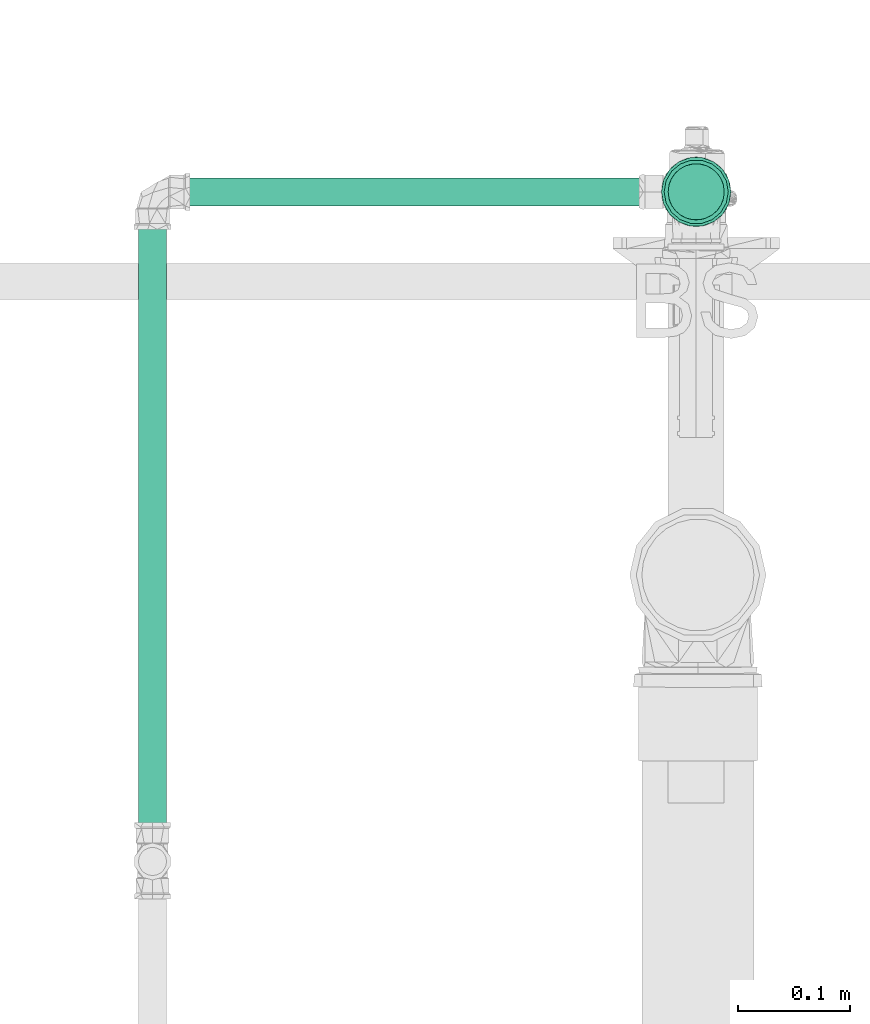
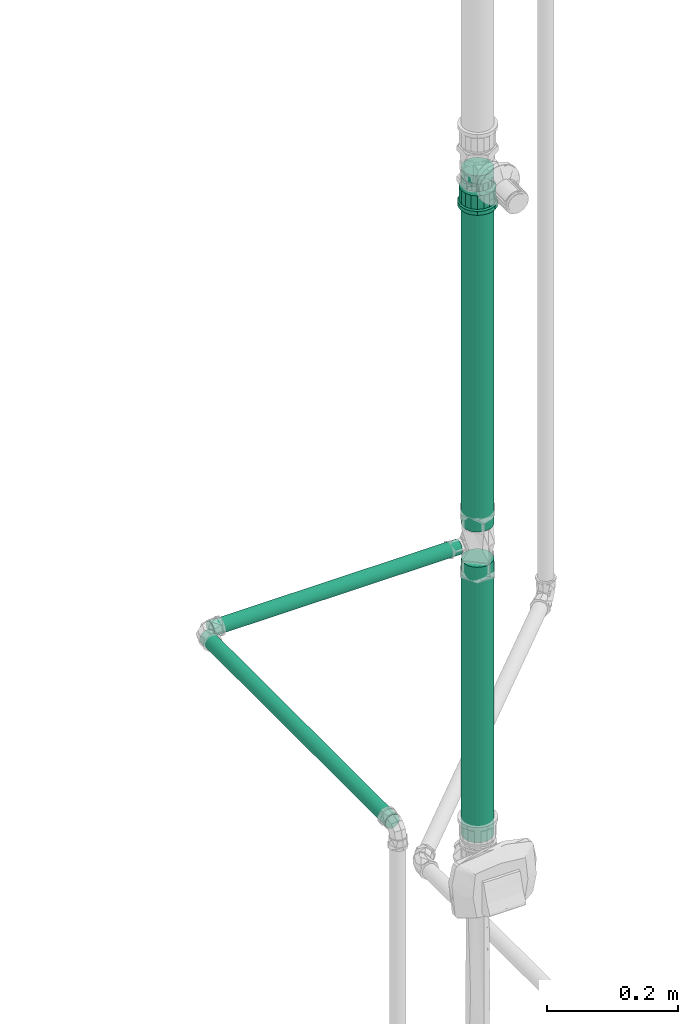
# One storey, part 57 of 589: 4 flow segments, 1 flow fitting.
"""IFC2X3 building model written with IfcOpenShell, lengths in millimetres."""

import ifcopenshell
import ifcopenshell.guid

model = None  # the IFC model being written
_history = None  # IfcOwnerHistory: only IFC2X3 demands one
_inside = {}  # id of a spatial element -> (the spatial element, [elements in it])
_under = {}  # id of a project, library or spatial element -> (it, [spatial elements below it])
_declared = {}  # id of a project -> (the project, [libraries it declares])
_typed = {}  # id of a type object -> (the type object, [elements of that type])
_made_of = {}  # id of a material, layer set ... -> (it, [elements and type objects made of it])


def new_model(schema):
    """Start an empty IFC model of exactly this schema.

    Asked for "IFC4X3", IfcOpenShell would pick the latest addendum, in which some entities
    have other attributes; the version numbers below select the first issue.
    IFC2X3 requires an IfcOwnerHistory on every rooted entity: one is made here for all.
    """
    global model, _history
    if schema == "IFC4X3":
        model = ifcopenshell.file(schema_version=(4, 3, 0, 0))
    else:
        model = ifcopenshell.file(schema=schema)
    _inside.clear()
    _under.clear()
    _declared.clear()
    _typed.clear()
    _made_of.clear()
    _history = None
    if model.schema == "IFC2X3":
        org = make("IfcOrganization", Name="unknown")
        user = make(
            "IfcPersonAndOrganization",
            ThePerson=make("IfcPerson", FamilyName="unknown"),
            TheOrganization=org,
        )
        app = make(
            "IfcApplication",
            ApplicationDeveloper=org,
            Version="unknown",
            ApplicationFullName="unknown",
            ApplicationIdentifier="unknown",
        )
        _history = make(
            "IfcOwnerHistory",
            OwningUser=user,
            OwningApplication=app,
            ChangeAction="ADDED",
            CreationDate=0,
        )
    return model


def make(cls, **values):
    """One entity of the class cls with the attributes given. An attribute that is None is left unset."""
    return model.create_entity(
        cls, **{name: value for name, value in values.items() if value is not None}
    )


def entity(cls, *values):
    """Any entity or typed value of the class cls, its attributes in the order of the schema. None: left unset."""
    e = model.create_entity(cls)
    for i, value in enumerate(values):
        if value is not None:
            e[i] = value
    return e


def rooted(cls, **values):
    """An entity with a GlobalId (a new one), such as an element, a storey or a relation."""
    return make(cls, GlobalId=ifcopenshell.guid.new(), OwnerHistory=_history, **values)


def si_unit(unit_type, name, prefix=None):
    """IfcSIUnit, for example si_unit("LENGTHUNIT", "METRE", prefix="MILLI")."""
    return make("IfcSIUnit", UnitType=unit_type, Prefix=prefix, Name=name)


def converted_unit(unit_type, name, factor, base, dimensions=None, offset=None):
    """IfcConversionBasedUnit, such as the inch: factor (a typed value) times the base unit."""
    return make(
        "IfcConversionBasedUnit"
        if offset is None
        else "IfcConversionBasedUnitWithOffset",
        ConversionOffset=offset,
        Dimensions=None
        if dimensions is None
        else entity("IfcDimensionalExponents", *dimensions),
        UnitType=unit_type,
        Name=name,
        ConversionFactor=make(
            "IfcMeasureWithUnit", ValueComponent=factor, UnitComponent=base
        ),
    )


def derived_unit(unit_type, elements):
    """IfcDerivedUnit: a product of units, each with its exponent."""
    return make(
        "IfcDerivedUnit",
        Elements=[
            make("IfcDerivedUnitElement", Unit=unit, Exponent=power)
            for unit, power in elements
        ],
        UnitType=unit_type,
    )


def assignment(units):
    """IfcUnitAssignment: the units of a project."""
    return None if units is None else make("IfcUnitAssignment", Units=units)


def point(xyz):
    """IfcCartesianPoint."""
    return None if xyz is None else make("IfcCartesianPoint", Coordinates=xyz)


def direction(xyz):
    """IfcDirection."""
    return None if xyz is None else make("IfcDirection", DirectionRatios=xyz)


def frame(location, z_axis=None, x_axis=None):
    """IfcAxis2Placement3D, a coordinate frame: its origin and axes. An axis left out is left unset."""
    return make(
        "IfcAxis2Placement3D",
        Location=point(location),
        Axis=direction(z_axis),
        RefDirection=direction(x_axis),
    )


def frame_2d(location, x_axis=None):
    """IfcAxis2Placement2D, a coordinate frame in the plane: its origin and x axis."""
    return make(
        "IfcAxis2Placement2D", Location=point(location), RefDirection=direction(x_axis)
    )


def origin():
    """The frame at (0, 0, 0) with its axes left unset."""
    return frame((0.0, 0.0, 0.0))


def origin_2d_with_axis():
    """The frame at (0, 0) in the plane with the x axis (1, 0) written out."""
    return frame_2d((0.0, 0.0), x_axis=(1.0, 0.0))


def place(relative_to, where):
    """IfcLocalPlacement: puts the frame where relative to a parent placement (None: the world)."""
    return make(
        "IfcLocalPlacement", PlacementRelTo=relative_to, RelativePlacement=where
    )


def context(
    kind, dimensions, precision=None, world=None, true_north=None, identifier=None
):
    """IfcGeometricRepresentationContext, for example the 3D "Model" context."""
    return make(
        "IfcGeometricRepresentationContext",
        ContextIdentifier=identifier,
        ContextType=kind,
        CoordinateSpaceDimension=dimensions,
        Precision=precision,
        WorldCoordinateSystem=world,
        TrueNorth=true_north,
    )


def subcontext(parent, identifier, kind, view, scale=None):
    """IfcGeometricRepresentationSubContext, for example "Body" below "Model"."""
    return make(
        "IfcGeometricRepresentationSubContext",
        ContextIdentifier=identifier,
        ContextType=kind,
        ParentContext=parent,
        TargetScale=scale,
        TargetView=view,
    )


def project(units=None, contexts=None):
    """IfcProject with its units and contexts."""
    return rooted(
        "IfcProject",
        Name="project",
        RepresentationContexts=contexts,
        UnitsInContext=assignment(units),
    )


def spatial(cls, under=None, at=None, **own):
    """A site, building, storey or space (cls), placed at a placement, below another one or the project."""
    s = rooted(cls, ObjectPlacement=at, **own)
    if under is not None:
        _under.setdefault(under.id(), (under, []))[1].append(s)
    return s


def profile(cls, at=None, kind="AREA", **sizes):
    """A parametric profile (cls). Its sizes go by their IFC names, for example OverallWidth=200.0."""
    return make(cls, ProfileType=kind, Position=at, **sizes)


def circle(**sizes):
    """IfcCircleProfileDef."""
    return profile("IfcCircleProfileDef", **sizes)


def extrude(swept, where, along, depth):
    """IfcExtrudedAreaSolid: the profile swept, set in the frame where, extruded along a direction by depth."""
    return make(
        "IfcExtrudedAreaSolid",
        SweptArea=swept,
        Position=where,
        ExtrudedDirection=direction(along),
        Depth=depth,
    )


def faces_of(points, faces, orient=None, outer=None):
    """IfcFace entities. A face is a list of loops; a loop is a list of indices into points, from 0.

    orient and outer hold one flag for each loop. By default every Orientation is true, the
    first loop of a face is its IfcFaceOuterBound and the others are IfcFaceBound.
    """
    made = []
    for i, loops in enumerate(faces):
        bounds = []
        for j, loop in enumerate(loops):
            is_outer = j == 0 if outer is None else outer[i][j]
            bounds.append(
                make(
                    "IfcFaceOuterBound" if is_outer else "IfcFaceBound",
                    Bound=make("IfcPolyLoop", Polygon=[points[k] for k in loop]),
                    Orientation=True if orient is None else orient[i][j],
                )
            )
        made.append(make("IfcFace", Bounds=bounds))
    return made


def faceted_brep(points, faces, orient=None, outer=None, voids=None):
    """IfcFacetedBrep: a solid bounded by flat faces; with voids (closed shells), ...WithVoids."""
    shared = [point(p) for p in points]
    hull = make("IfcClosedShell", CfsFaces=faces_of(shared, faces, orient, outer))
    if voids is None:
        return make("IfcFacetedBrep", Outer=hull)
    return make(
        "IfcFacetedBrepWithVoids",
        Outer=hull,
        Voids=[
            make(cls, CfsFaces=faces_of(shared, fs, o, b)) for cls, fs, o, b in voids
        ],
    )


def shape(context_of_items, identifier, shape_type, items):
    """IfcShapeRepresentation: the items that make up one representation, for example the "Body"."""
    return make(
        "IfcShapeRepresentation",
        ContextOfItems=context_of_items,
        RepresentationIdentifier=identifier,
        RepresentationType=shape_type,
        Items=items,
    )


def source(mapping_origin, context_of_items, identifier, shape_type, items):
    """IfcRepresentationMap: a shape defined once, which mapped items show again and again."""
    return make(
        "IfcRepresentationMap",
        MappingOrigin=mapping_origin,
        MappedRepresentation=shape(context_of_items, identifier, shape_type, items),
    )


def transform(
    local_origin,
    x_axis=None,
    y_axis=None,
    z_axis=None,
    scale=None,
    scale2=None,
    scale3=None,
    uniform=True,
):
    """IfcCartesianTransformationOperator3D, or its non-uniform kind. x_axis, y_axis, z_axis: its Axis1, 2, 3."""
    if uniform:
        return make(
            "IfcCartesianTransformationOperator3D",
            Axis1=direction(x_axis),
            Axis2=direction(y_axis),
            LocalOrigin=point(local_origin),
            Scale=scale,
            Axis3=direction(z_axis),
        )
    return make(
        "IfcCartesianTransformationOperator3DnonUniform",
        Axis1=direction(x_axis),
        Axis2=direction(y_axis),
        LocalOrigin=point(local_origin),
        Scale=scale,
        Axis3=direction(z_axis),
        Scale2=scale2,
        Scale3=scale3,
    )


def mapped(mapping_source, mapping_target):
    """IfcMappedItem: shows the shape of a source again, moved by a transform."""
    return make(
        "IfcMappedItem", MappingSource=mapping_source, MappingTarget=mapping_target
    )


def material(Name=None, Category=None):
    """IfcMaterial."""
    return make("IfcMaterial", Name=Name, Category=Category)


def made_of(thing, what):
    """Note that an element or type object is made of a material, layer set ...; save() writes the relation."""
    if what is not None:
        _made_of.setdefault(what.id(), (what, []))[1].append(thing)
    return thing


def type_object(cls, material=None, **own):
    """A type object (cls), such as IfcWallType, which elements share."""
    return made_of(rooted(cls, **own), material)


def type_shapes(of_type, sources):
    """Give a type object the sources (RepresentationMaps) that its elements show as mapped items."""
    of_type.RepresentationMaps = sources


def element(
    cls,
    number,
    at=None,
    inside=None,
    cuts=None,
    type_object=None,
    material=None,
    context=None,
    identifier="Body",
    shape_type=None,
    held_by="IfcProductDefinitionShape",
    body=None,
    shapes=None,
    **own,
):
    """One element of the class cls, such as IfcWall. Its Tag is "e" and its number.

    at: its placement. inside: the storey or other place that contains it. cuts: it is an
    opening in that element (IfcRelVoidsElement). A single representation is given by context,
    identifier, shape_type and body (its items); several are given by shapes. held_by: the class
    of the entity that holds the representations. save() writes the other relations.
    """
    e = rooted(cls, Tag="e%d" % number, ObjectPlacement=at, **own)
    if body is not None:
        shapes = [shape(context, identifier, shape_type, body)]
    if shapes is not None:
        e.Representation = make(held_by, Representations=shapes)
    if inside is not None:
        _inside.setdefault(inside.id(), (inside, []))[1].append(e)
    if cuts is not None:
        rooted(
            "IfcRelVoidsElement", RelatingBuildingElement=cuts, RelatedOpeningElement=e
        )
    if type_object is not None:
        _typed.setdefault(type_object.id(), (type_object, []))[1].append(e)
    return made_of(e, material)


def aggregate(whole, parts):
    """IfcRelAggregates: a whole, such as a stair, and the parts it consists of."""
    return rooted("IfcRelAggregates", RelatingObject=whole, RelatedObjects=parts)


def save(model, path):
    """Write the relations noted so far, then the file.

    IfcRelAggregates (storeys below a building ...), IfcRelContainedInSpatialStructure (elements
    in a storey), IfcRelDefinesByType, IfcRelAssociatesMaterial and IfcRelDeclares: one each for
    every whole, place, type object, material and project.
    """
    for whole, parts in _under.values():
        aggregate(whole, parts)
    for where, things in _inside.values():
        rooted(
            "IfcRelContainedInSpatialStructure",
            RelatedElements=things,
            RelatingStructure=where,
        )
    for kind, things in _typed.values():
        rooted("IfcRelDefinesByType", RelatedObjects=things, RelatingType=kind)
    for what, things in _made_of.values():
        rooted("IfcRelAssociatesMaterial", RelatedObjects=things, RelatingMaterial=what)
    for by, libraries in _declared.values():
        rooted("IfcRelDeclares", RelatingContext=by, RelatedDefinitions=libraries)
    model.write(path)


model = new_model("IFC2X3")

# Units and contexts
model_context = context("Model", 3, precision=0.01, world=origin(), true_north=direction((6.123031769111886e-17, 1.0)))
body_context = subcontext(model_context, "Body", "Model", "MODEL_VIEW")
ifc_project = project(units=[si_unit("LENGTHUNIT", "METRE", prefix="MILLI"), si_unit("AREAUNIT", "SQUARE_METRE"), si_unit("VOLUMEUNIT", "CUBIC_METRE"), converted_unit("PLANEANGLEUNIT", "DEGREE", entity("IfcRatioMeasure", 0.017453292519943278), si_unit("PLANEANGLEUNIT", "RADIAN"), dimensions=[0, 0, 0, 0, 0, 0, 0]), si_unit("MASSUNIT", "GRAM", prefix="KILO"), derived_unit("MASSDENSITYUNIT", [(si_unit("MASSUNIT", "GRAM", prefix="KILO"), 1), (si_unit("LENGTHUNIT", "METRE"), -3)]), derived_unit("IONCONCENTRATIONUNIT", [(si_unit("MASSUNIT", "GRAM", prefix="KILO"), 1), (si_unit("LENGTHUNIT", "METRE"), -3)]), derived_unit("MOMENTOFINERTIAUNIT", [(si_unit("LENGTHUNIT", "METRE"), 4)]), si_unit("TIMEUNIT", "SECOND"), si_unit("FREQUENCYUNIT", "HERTZ"), si_unit("THERMODYNAMICTEMPERATUREUNIT", "DEGREE_CELSIUS"), derived_unit("THERMALTRANSMITTANCEUNIT", [(si_unit("MASSUNIT", "GRAM", prefix="KILO"), 1), (si_unit("THERMODYNAMICTEMPERATUREUNIT", "KELVIN"), -1), (si_unit("TIMEUNIT", "SECOND"), -3)]), derived_unit("THERMALCONDUCTANCEUNIT", [(si_unit("MASSUNIT", "GRAM", prefix="KILO"), 1), (si_unit("THERMODYNAMICTEMPERATUREUNIT", "KELVIN"), -1), (si_unit("TIMEUNIT", "SECOND"), -3), (si_unit("LENGTHUNIT", "METRE"), 1)]), derived_unit("VOLUMETRICFLOWRATEUNIT", [(si_unit("LENGTHUNIT", "METRE"), 3), (si_unit("TIMEUNIT", "SECOND"), -1)]), derived_unit("MASSFLOWRATEUNIT", [(si_unit("MASSUNIT", "GRAM", prefix="KILO"), 1), (si_unit("TIMEUNIT", "SECOND"), -1)]), derived_unit("ROTATIONALFREQUENCYUNIT", [(si_unit("TIMEUNIT", "SECOND"), -1)]), si_unit("ELECTRICCURRENTUNIT", "AMPERE"), si_unit("ELECTRICVOLTAGEUNIT", "VOLT"), si_unit("POWERUNIT", "WATT"), si_unit("FORCEUNIT", "NEWTON", prefix="KILO"), si_unit("ILLUMINANCEUNIT", "LUX"), si_unit("LUMINOUSFLUXUNIT", "LUMEN"), si_unit("LUMINOUSINTENSITYUNIT", "CANDELA"), derived_unit("USERDEFINED", [(si_unit("MASSUNIT", "GRAM", prefix="KILO"), -1), (si_unit("LENGTHUNIT", "METRE"), -2), (si_unit("TIMEUNIT", "SECOND"), 3), (si_unit("LUMINOUSFLUXUNIT", "LUMEN"), 1)]), derived_unit("USERDEFINED", [(si_unit("MASSUNIT", "GRAM", prefix="KILO"), 1), (si_unit("TIMEUNIT", "SECOND"), -3), (si_unit("LENGTHUNIT", "METRE"), 3), (si_unit("ELECTRICCURRENTUNIT", "AMPERE"), -2)]), derived_unit("SOUNDPOWERUNIT", [(si_unit("MASSUNIT", "GRAM", prefix="KILO"), 1), (si_unit("TIMEUNIT", "SECOND"), -3), (si_unit("LENGTHUNIT", "METRE"), 2)]), derived_unit("SOUNDPRESSUREUNIT", [(si_unit("MASSUNIT", "GRAM", prefix="KILO"), 1), (si_unit("LENGTHUNIT", "METRE"), -1), (si_unit("TIMEUNIT", "SECOND"), -2)]), derived_unit("LINEARVELOCITYUNIT", [(si_unit("LENGTHUNIT", "METRE"), 1), (si_unit("TIMEUNIT", "SECOND"), -1)]), si_unit("PRESSUREUNIT", "PASCAL"), derived_unit("USERDEFINED", [(si_unit("MASSUNIT", "GRAM", prefix="KILO"), 1), (si_unit("LENGTHUNIT", "METRE"), -2), (si_unit("TIMEUNIT", "SECOND"), -2)]), derived_unit("LINEARFORCEUNIT", [(si_unit("MASSUNIT", "GRAM", prefix="KILO"), 1), (si_unit("TIMEUNIT", "SECOND"), -2)]), derived_unit("PLANARFORCEUNIT", [(si_unit("MASSUNIT", "GRAM", prefix="KILO"), 1), (si_unit("LENGTHUNIT", "METRE"), -1), (si_unit("TIMEUNIT", "SECOND"), -2)]), derived_unit("SPECIFICHEATCAPACITYUNIT", [(si_unit("THERMODYNAMICTEMPERATUREUNIT", "KELVIN"), -1), (si_unit("LENGTHUNIT", "METRE"), 2), (si_unit("TIMEUNIT", "SECOND"), -2)]), derived_unit("HEATINGVALUEUNIT", [(si_unit("LENGTHUNIT", "METRE"), 2), (si_unit("TIMEUNIT", "SECOND"), -2)]), derived_unit("VAPORPERMEABILITYUNIT", [(si_unit("LENGTHUNIT", "METRE"), -1), (si_unit("TIMEUNIT", "SECOND"), 1)]), derived_unit("DYNAMICVISCOSITYUNIT", [(si_unit("MASSUNIT", "GRAM", prefix="KILO"), 1), (si_unit("TIMEUNIT", "SECOND"), -1), (si_unit("LENGTHUNIT", "METRE"), -1)]), derived_unit("THERMALEXPANSIONCOEFFICIENTUNIT", [(si_unit("THERMODYNAMICTEMPERATUREUNIT", "KELVIN"), -1)]), derived_unit("MODULUSOFELASTICITYUNIT", [(si_unit("MASSUNIT", "GRAM", prefix="KILO"), 1), (si_unit("LENGTHUNIT", "METRE"), -1), (si_unit("TIMEUNIT", "SECOND"), -2)]), derived_unit("ISOTHERMALMOISTURECAPACITYUNIT", [(si_unit("LENGTHUNIT", "METRE"), 3), (si_unit("MASSUNIT", "GRAM", prefix="KILO"), -1)]), derived_unit("MOISTUREDIFFUSIVITYUNIT", [(si_unit("TIMEUNIT", "SECOND"), -1), (si_unit("LENGTHUNIT", "METRE"), 2)])], contexts=[model_context])

# Site, building, storey
site_placement = place(None, origin())
site = spatial("IfcSite", under=ifc_project, at=site_placement, Name="Default", CompositionType="ELEMENT")
building_placement = place(site_placement, origin())
building = spatial("IfcBuilding", under=site, at=building_placement, CompositionType="ELEMENT")
storey_placement = place(building_placement, frame((0.0, 0.0, 100.0)))
storey = spatial("IfcBuildingStorey", under=building, at=storey_placement, Name="TÉRREO", CompositionType="ELEMENT", Elevation=100.0)

# Flow segments
pipe_segment_type = type_object("IfcPipeSegmentType", Name="Tipos de tubos:PVC Marrom Soldável", PredefinedType="NOTDEFINED")
flow_segment_1_placement = place(storey_placement, origin())
element("IfcFlowSegment", 1, at=flow_segment_1_placement, inside=storey, type_object=pipe_segment_type, Name="Tipos de tubos:PVC Marrom Soldável", ObjectType="Tipos de tubos:PVC Marrom Soldável", context=body_context, shape_type="SweptSolid", body=[
    extrude(circle(Radius=25.0, at=frame_2d((-2.707167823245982e-13, 0.0), x_axis=(1.0, 0.0))), frame((2016.6423921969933, -7970.828664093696, 1532.599970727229), z_axis=(0.0, 0.0, 1.0), x_axis=(-1.0, 0.0, 0.0)), (0.0, 0.0, 1.0), 645.9000292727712),
])
flow_segment_2_placement = place(storey_placement, origin())
element("IfcFlowSegment", 2, at=flow_segment_2_placement, inside=storey, type_object=pipe_segment_type, Name="Tipos de tubos:PVC Marrom Soldável", ObjectType="Tipos de tubos:PVC Marrom Soldável", context=body_context, shape_type="SweptSolid", body=[
    extrude(circle(Radius=12.5, at=frame_2d((0.0, 2.707167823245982e-13), x_axis=(1.0, 0.0))), frame((1547.1423921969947, -7970.828664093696, 1499.9999707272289), z_axis=(1.0, 0.0, 0.0), x_axis=(0.0, 1.0, 0.0)), (0.0, 0.0, 1.0), 435.7999999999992),
])
flow_segment_3_placement = place(storey_placement, origin())
element("IfcFlowSegment", 3, at=flow_segment_3_placement, inside=storey, type_object=pipe_segment_type, Name="Tipos de tubos:PVC Marrom Soldável", ObjectType="Tipos de tubos:PVC Marrom Soldável", context=body_context, shape_type="SweptSolid", body=[
    extrude(circle(Radius=25.0, at=origin_2d_with_axis()), frame((2016.6423921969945, -7970.828664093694, 955.7041463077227), z_axis=(0.0, 0.0, 1.0), x_axis=(-1.0, 0.0, 0.0)), (0.0, 0.0, 1.0), 511.6958244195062),
])
flow_segment_4_placement = place(storey_placement, origin())
element("IfcFlowSegment", 4, at=flow_segment_4_placement, inside=storey, type_object=pipe_segment_type, Name="Tipos de tubos:PVC Marrom Soldável", ObjectType="Tipos de tubos:PVC Marrom Soldável", context=body_context, shape_type="SweptSolid", body=[
    extrude(circle(Radius=12.5, at=origin_2d_with_axis()), frame((1531.7423921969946, -8551.428663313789, 1500.0), z_axis=(0.0, 1.0, 0.0), x_axis=(-1.0, 0.0, 0.0)), (0.0, 0.0, 1.0), 565.1999992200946),
])

# Flow fitting
ifc_material = material(Name="PVC Marrom")
pipe_fitting_type = type_object("IfcPipeFittingType", Name="PVC Marrom Soldável_Adaptador Curto com Bolsa e Rosca Aninhado_Rodrigo MEP:Adaptador", PredefinedType="NOTDEFINED", material=ifc_material)
shared_shape = source(origin(), body_context, "Body", "Brep", [
    faceted_brep([(0.0, 12.499999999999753, -21.65063509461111), (0.0, 21.884954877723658, -21.88495487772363), (0.0, 15.475000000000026, -26.803486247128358), (0.0, 17.677669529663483, -17.6776695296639), (0.0, 6.470476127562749, -24.14814565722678), (0.0, 26.803486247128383, -15.474999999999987), (0.0, 21.650635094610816, -12.500000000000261), (0.0, 24.148145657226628, -6.470476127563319), (0.0, 29.895404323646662, -8.01044944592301), (0.0, 25.0, 0.0), (0.0, 30.95, 0.0), (0.0, 24.14814565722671, 6.470476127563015), (0.0, 29.895404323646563, 8.010449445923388), (0.0, 21.65063509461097, 12.499999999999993), (0.0, 26.80348624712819, 15.475000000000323), (0.0, 17.6776695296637, 17.677669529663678), (0.0, 21.884954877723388, 21.884954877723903), (0.0, 12.500000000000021, 21.65063509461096), (0.0, 15.474999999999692, 26.803486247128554), (0.0, 6.4704761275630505, 24.1481456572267), (0.0, 8.010449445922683, 29.89540432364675), (0.0, 0.0, 25.0), (0.0, 0.0, 30.95), (0.0, -6.4704761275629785, 24.14814565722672), (0.0, -8.010449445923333, 29.895404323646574), (0.0, -12.49999999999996, 21.650635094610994), (0.0, -15.475000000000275, 26.803486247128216), (0.0, -17.677669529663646, 17.67766952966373), (0.0, -21.884954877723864, 21.884954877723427), (0.0, -21.65063509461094, 12.500000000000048), (0.0, -26.803486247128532, 15.474999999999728), (0.0, -29.89540432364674, 8.010449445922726), (0.0, -24.14814565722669, 6.4704761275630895), (0.0, -30.95, 0.0), (0.0, -25.0, 0.0), (0.0, -29.895404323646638, -8.010449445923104), (0.0, -24.148145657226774, -6.470476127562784), (0.0, -26.803486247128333, -15.475000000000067), (0.0, -21.6506350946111, -12.499999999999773), (0.0, -21.884954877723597, -21.884954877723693), (0.0, -17.677669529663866, -17.67766952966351), (0.0, -15.474999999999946, -26.803486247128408), (0.0, -12.500000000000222, -21.650635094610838), (0.0, -8.010449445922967, -29.895404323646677), (0.0, -6.470476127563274, -24.148145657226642), (0.0, 0.0, -30.95), (0.0, 0.0, -25.0), (0.0, 8.010449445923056, -29.895404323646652), (7.0, -30.016595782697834, 5.29316701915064), (7.0, -29.88065133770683, 6.064083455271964), (7.0, -29.083191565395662, 10.586334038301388), (7.0, -23.70796650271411, 19.895598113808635), (7.0, -19.590362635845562, 23.350189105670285), (7.0, -26.395579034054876, 15.24096607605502), (7.0, -5.3710129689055, 30.480398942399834), (7.0, -10.421885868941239, 28.6425895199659), (7.0, -30.95, 0.0), (7.0, -15.472758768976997, 26.804780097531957), (7.0, 10.42907040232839, 28.639974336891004), (7.0, 15.479482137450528, 26.80089798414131), (7.0, 5.37865866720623, 30.479050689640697), (7.0, 19.596219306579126, 23.345274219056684), (7.0, 23.712956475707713, 19.889650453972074), (7.0, 29.08584618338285, 10.57903832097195), (7.0, 30.95, 0.0), (7.0, 26.39940132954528, 15.234344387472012), (7.0, 0.0038228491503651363, 30.47972481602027), (7.0, 29.08584618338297, -10.579038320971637), (7.0, 23.71295647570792, -19.88965045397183), (7.0, 19.596219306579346, -23.3452742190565), (7.0, 26.39940132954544, -15.234344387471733), (7.0, 5.378658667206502, -30.47905068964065), (7.0, 10.429070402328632, -28.639974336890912), (7.0, 15.47948213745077, -26.800897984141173), (7.0, -30.0165957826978, -5.2931670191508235), (7.0, -10.421885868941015, -28.642589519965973), (7.0, -15.472758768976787, -26.804780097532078), (7.0, -5.3710129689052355, -30.480398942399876), (7.0, -19.590362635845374, -23.350189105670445), (7.0, -23.707966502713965, -19.895598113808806), (7.0, -29.083191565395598, -10.58633403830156), (7.0, -29.88065131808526, -6.064083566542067), (7.0, -26.395579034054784, -15.240966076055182), (7.0, 0.003822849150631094, -30.479724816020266), (9.400000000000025, -26.87493630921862, 9.782525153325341), (9.400000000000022, -27.737468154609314, 4.891262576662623), (34.4499999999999, -26.875116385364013, 9.782030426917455), (9.40000000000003, -18.102887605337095, 21.577234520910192), (34.4499999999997, -14.299296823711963, 24.768732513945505), (9.400000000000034, -14.297928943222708, 24.769522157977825), (9.400000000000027, -24.391391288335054, 14.083736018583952), (34.44999999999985, -24.391819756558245, 14.083085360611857), (34.4499999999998, -21.908523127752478, 18.384140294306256), (34.44999999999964, -4.965271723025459, 28.165689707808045), (9.400000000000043, -4.963197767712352, 28.16605524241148), (9.400000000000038, -9.63056335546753, 26.467788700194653), (9.400000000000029, -21.907846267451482, 18.384946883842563), (9.40000000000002, -28.600000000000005, 0.0), (34.44999999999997, -27.796398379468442, 4.557325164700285), (34.44999999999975, -18.103909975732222, 21.57643640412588), (34.44999999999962, 4.967670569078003, 28.165266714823), (9.400000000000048, 0.003532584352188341, 28.165432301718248), (34.44999999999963, 0.0011994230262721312, 28.165478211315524), (34.44999999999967, -9.632284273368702, 26.46721111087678), (9.400000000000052, 4.970262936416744, 28.164809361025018), (9.400000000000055, 9.63720237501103, 26.465372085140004), (34.449999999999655, 14.301406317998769, 24.76751455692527), (9.40000000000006, 14.304141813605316, 24.765934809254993), (34.449999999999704, 18.105747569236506, 21.574894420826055), (34.44999999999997, -27.73755819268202, 4.891015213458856), (34.449999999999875, 26.875949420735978, 9.779741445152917), (34.450000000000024, 28.600000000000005, 0.0), (9.400000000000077, 26.87738936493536, 9.77578339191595), (34.449999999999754, 21.910088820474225, 18.38227428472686), (9.40000000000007, 21.91245735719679, 18.379450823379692), (9.400000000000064, 18.108299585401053, 21.57269281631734), (34.44999999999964, 9.634538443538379, 26.46639063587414), (9.400000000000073, 24.394923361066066, 14.077617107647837), (34.450000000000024, -28.600000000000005, 0.0), (9.40000000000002, 28.600000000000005, 0.0), (34.44999999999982, 24.3930191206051, 14.081007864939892), (9.40000000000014, 26.87738936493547, -9.77578339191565), (34.45000000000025, 26.87594942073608, -9.77974144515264), (9.400000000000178, -18.10288760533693, -21.577234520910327), (34.45000000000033, -14.299296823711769, -24.76873251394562), (34.45000000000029, -18.10390997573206, -21.57643640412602), (9.400000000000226, 18.108299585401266, -21.57269281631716), (9.400000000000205, 21.912457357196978, -18.37945082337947), (34.450000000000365, 21.910088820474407, -18.38227428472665), (9.400000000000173, 24.394923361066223, -14.077617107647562), (34.45000000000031, 24.393019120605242, -14.081007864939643), (9.40000000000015, -21.907846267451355, -18.384946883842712), (34.45000000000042, 0.0011994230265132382, -28.165478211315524), (9.400000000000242, -4.963197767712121, -28.166055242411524), (9.40000000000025, 0.0035325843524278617, -28.165432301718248), (9.40000000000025, 9.637202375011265, -26.46537208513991), (9.400000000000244, 14.304141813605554, -24.765934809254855), (34.45000000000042, 14.301406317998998, -24.76751455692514), (9.400000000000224, -9.63056335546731, -26.467788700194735), (34.45000000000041, -4.965271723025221, -28.165689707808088), (34.45000000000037, -9.632284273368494, -26.467211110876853), (34.45000000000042, 9.634538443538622, -26.46639063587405), (9.400000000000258, 4.970262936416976, -28.164809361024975), (9.400000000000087, -26.874936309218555, -9.782525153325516), (9.40000000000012, -24.391391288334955, -14.083736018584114), (34.45000000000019, -24.391819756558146, -14.083085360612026), (34.450000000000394, 18.1057475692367, -21.574894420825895), (34.450000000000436, 4.967670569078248, -28.16526671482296), (34.45000000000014, -26.875116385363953, -9.782030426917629), (34.45000000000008, -27.796398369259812, -4.557325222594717), (9.400000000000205, -14.297928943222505, -24.769522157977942), (9.400000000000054, -27.737468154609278, -4.891262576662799), (34.450000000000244, -21.908523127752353, -18.38414029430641), (34.45000000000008, -27.737558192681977, -4.891015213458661), (69.0, 6.4704761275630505, -24.1481456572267), (69.0, 12.500000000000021, -21.65063509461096), (69.0, 17.6776695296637, -17.677669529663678), (69.0, 21.650635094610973, -12.499999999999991), (69.0, 24.14814565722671, -6.470476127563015), (69.0, 25.0, 0.0), (69.0, 24.148145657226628, 6.470476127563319), (69.0, 21.650635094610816, 12.500000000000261), (69.0, 17.677669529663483, 17.6776695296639), (69.0, 12.499999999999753, 21.65063509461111), (69.0, 6.470476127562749, 24.14814565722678), (69.0, 0.0, 25.0), (69.0, -6.470476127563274, 24.148145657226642), (69.0, -12.500000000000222, 21.650635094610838), (69.0, -17.67766952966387, 17.677669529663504), (69.0, -21.650635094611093, 12.499999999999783), (69.0, -24.148145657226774, 6.470476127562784), (69.0, -25.0, 0.0), (69.0, -24.14814565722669, -6.4704761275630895), (69.0, -21.650635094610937, -12.500000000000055), (69.0, -17.677669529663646, -17.67766952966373), (69.0, -12.49999999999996, -21.650635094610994), (69.0, -6.4704761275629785, -24.14814565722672), (69.0, 0.0, -25.0), (40.499999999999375, -8.41832461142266, 23.136178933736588), (40.49999999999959, -19.1502152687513, 16.070757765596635), (40.49999999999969, -21.321146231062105, 12.310958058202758), (40.49999999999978, -23.492077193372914, 8.551158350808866), (40.49999999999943, -12.498189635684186, 21.651680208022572), (40.49999999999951, -15.824202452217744, 18.861218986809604), (40.49999999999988, -24.246038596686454, 4.2755791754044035), (40.49999999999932, -4.3384595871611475, 24.620677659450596), (40.499999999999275, 4.344635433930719, 24.61958860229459), (40.499999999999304, 0.003087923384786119, 24.620133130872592), (40.49999999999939, 15.828933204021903, 18.85724896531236), (40.49999999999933, 12.503620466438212, 21.648544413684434), (40.49999999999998, -25.0, 0.0), (40.49999999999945, 19.154245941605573, 16.065953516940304), (40.49999999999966, 23.494221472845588, 8.545265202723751), (40.499999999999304, 8.424127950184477, 23.13406650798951), (40.49999999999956, 21.324233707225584, 12.305609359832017), (40.49999999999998, 25.0, 0.0), (40.500000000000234, 19.15424594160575, -16.065953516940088), (40.500000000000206, -15.824202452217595, -18.861218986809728), (40.50000000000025, -12.498189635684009, -21.65168020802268), (40.500000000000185, 21.32423370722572, -12.305609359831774), (40.50000000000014, 23.494221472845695, -8.545265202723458), (40.5000000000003, 12.503620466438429, -21.64854441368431), (40.50000000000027, 15.82893320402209, -18.8572489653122), (40.50000000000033, 4.344635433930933, -24.619588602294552), (40.50000000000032, 8.42412795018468, -23.13406650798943), (40.5000000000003, -4.3384595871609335, -24.62067765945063), (40.50000000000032, 0.00308792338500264, -24.620133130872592), (40.50000000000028, -8.41832461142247, -23.136178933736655), (40.50000000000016, -19.150215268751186, -16.070757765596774), (40.50000000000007, -23.49207719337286, -8.551158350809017), (40.500000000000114, -21.321146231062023, -12.31095805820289), (40.50000000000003, -24.246038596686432, -4.275579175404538), (9.40000000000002, -25.0, 0.0), (34.450000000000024, -25.0, 0.0), (34.450000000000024, -24.14814565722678, -6.470476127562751), (9.40000000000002, -24.14814565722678, -6.470476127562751), (7.0, -24.14814565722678, -6.470476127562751), (7.0, -25.0, 0.0), (34.450000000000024, -21.650635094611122, -12.499999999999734), (9.40000000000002, -21.650635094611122, -12.499999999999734), (7.0, -21.650635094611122, -12.499999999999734), (9.40000000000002, -12.500000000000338, -21.65063509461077), (7.0, -12.500000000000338, -21.65063509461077), (7.0, -17.677669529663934, -17.677669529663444), (9.40000000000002, -17.677669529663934, -17.677669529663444), (34.450000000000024, -17.677669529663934, -17.677669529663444), (34.450000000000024, -12.500000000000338, -21.65063509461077), (9.40000000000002, -6.470476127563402, -24.148145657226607), (7.0, -6.470476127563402, -24.148145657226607), (34.450000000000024, -6.470476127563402, -24.148145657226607), (34.450000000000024, 0.0, -25.0), (9.40000000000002, 0.0, -25.0), (7.0, 0.0, -25.0), (34.450000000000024, 6.470476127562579, -24.148145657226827), (9.40000000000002, 6.470476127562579, -24.148145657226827), (7.0, 6.470476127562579, -24.148145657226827), (34.450000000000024, 12.49999999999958, -21.65063509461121), (9.40000000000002, 12.49999999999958, -21.65063509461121), (7.0, 12.49999999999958, -21.65063509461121), (34.450000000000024, 24.148145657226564, -6.470476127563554), (34.450000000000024, 25.0, 0.0), (9.40000000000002, 25.0, 0.0), (7.0, 25.0, 0.0), (7.0, 24.14814565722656, -6.470476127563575), (9.40000000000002, 24.148145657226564, -6.470476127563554), (34.450000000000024, 17.677669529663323, -17.677669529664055), (9.40000000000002, 17.677669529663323, -17.677669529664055), (7.0, 17.677669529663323, -17.677669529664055), (34.450000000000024, 21.650635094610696, -12.500000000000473), (9.40000000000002, 21.650635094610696, -12.500000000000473), (7.0, 21.650635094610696, -12.500000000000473), (34.450000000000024, 24.148145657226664, 6.470476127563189), (9.40000000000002, 24.148145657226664, 6.470476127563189), (7.0, 24.148145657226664, 6.470476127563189), (34.450000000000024, 21.65063509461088, 12.50000000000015), (9.40000000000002, 21.65063509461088, 12.50000000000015), (7.0, 21.65063509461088, 12.50000000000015), (9.40000000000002, 12.49999999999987, 21.650635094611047), (7.0, 12.49999999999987, 21.650635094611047), (7.0, 17.677669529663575, 17.677669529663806), (9.40000000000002, 17.677669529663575, 17.677669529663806), (34.450000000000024, 17.677669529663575, 17.677669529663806), (34.450000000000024, 12.49999999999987, 21.650635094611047), (9.40000000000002, 6.470476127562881, 24.14814565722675), (7.0, 6.470476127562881, 24.14814565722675), (34.450000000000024, 6.470476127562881, 24.14814565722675), (34.450000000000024, 0.0, 25.0), (9.40000000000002, 0.0, 25.0), (7.0, 0.0, 25.0), (9.40000000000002, -17.677669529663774, 17.677669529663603), (7.0, -17.677669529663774, 17.677669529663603), (7.0, -12.50000000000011, 21.650635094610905), (9.40000000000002, -12.50000000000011, 21.650635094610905), (34.450000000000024, -12.50000000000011, 21.650635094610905), (34.450000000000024, -17.677669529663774, 17.677669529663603), (9.40000000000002, -24.14814565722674, 6.470476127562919), (7.0, -24.14814565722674, 6.470476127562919), (7.0, -21.650635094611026, 12.499999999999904), (9.40000000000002, -21.650635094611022, 12.499999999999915), (34.450000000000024, -21.650635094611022, 12.499999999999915), (34.450000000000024, -24.14814565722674, 6.470476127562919), (7.0, -6.470476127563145, 24.148145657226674), (9.40000000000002, -6.470476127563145, 24.148145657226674), (34.450000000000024, -6.470476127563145, 24.148145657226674)], [[[0, 1, 2]], [[3, 1, 0]], [[4, 0, 2]], [[1, 3, 5]], [[5, 3, 6]], [[5, 6, 7]], [[8, 5, 7]], [[9, 8, 7]], [[10, 8, 9]], [[10, 9, 11]], [[12, 10, 11]], [[12, 11, 13]], [[14, 12, 13]], [[14, 13, 15]], [[15, 16, 14]], [[15, 17, 16]], [[18, 16, 17]], [[19, 18, 17]], [[18, 19, 20]], [[21, 20, 19]], [[22, 20, 21]], [[21, 23, 22]], [[24, 22, 23]], [[25, 24, 23]], [[24, 25, 26]], [[25, 27, 26]], [[27, 28, 26]], [[28, 27, 29]], [[28, 29, 30]], [[30, 29, 31]], [[31, 29, 32]], [[33, 31, 32]], [[32, 34, 33]], [[33, 34, 35]], [[34, 36, 35]], [[37, 35, 36]], [[37, 36, 38]], [[39, 37, 38]], [[40, 39, 38]], [[40, 41, 39]], [[42, 41, 40]], [[43, 41, 42]], [[42, 44, 43]], [[43, 44, 45]], [[44, 46, 45]], [[46, 4, 47]], [[45, 46, 47]], [[2, 47, 4]], [[31, 48, 49, 50]], [[28, 51, 52]], [[51, 30, 50, 53]], [[54, 24, 55]], [[30, 31, 50]], [[56, 48, 33]], [[52, 57, 26]], [[52, 26, 28]], [[30, 51, 28]], [[58, 59, 18]], [[58, 18, 20]], [[26, 57, 55]], [[26, 55, 24]], [[22, 24, 54]], [[33, 48, 31]], [[20, 60, 58]], [[16, 61, 62]], [[12, 63, 64]], [[63, 14, 62, 65]], [[12, 64, 10]], [[18, 61, 16]], [[22, 54, 66, 60]], [[22, 60, 20]], [[14, 16, 62]], [[59, 61, 18]], [[14, 63, 12]], [[8, 64, 67]], [[1, 68, 69]], [[68, 5, 67, 70]], [[71, 47, 72]], [[5, 8, 67]], [[8, 10, 64]], [[2, 72, 47]], [[69, 73, 2]], [[5, 68, 1]], [[74, 33, 35]], [[75, 76, 41]], [[2, 73, 72]], [[75, 41, 43]], [[45, 47, 71]], [[69, 2, 1]], [[43, 77, 75]], [[39, 78, 79]], [[35, 80, 81, 74]], [[80, 37, 79, 82]], [[37, 80, 35]], [[41, 78, 39]], [[45, 71, 83, 77]], [[45, 77, 43]], [[37, 39, 79]], [[76, 78, 41]], [[74, 56, 33]], [[84, 85, 86]], [[87, 88, 89]], [[90, 91, 92]], [[93, 94, 95]], [[92, 96, 90]], [[85, 97, 98]], [[99, 87, 96]], [[91, 84, 86]], [[100, 101, 102]], [[93, 95, 103]], [[89, 103, 95]], [[84, 91, 90]], [[100, 104, 101]], [[88, 87, 99]], [[105, 106, 107]], [[108, 107, 106]], [[85, 98, 109, 86]], [[102, 94, 93]], [[110, 111, 112]], [[113, 114, 115]], [[116, 104, 100]], [[112, 117, 110]], [[113, 115, 108]], [[104, 116, 105]], [[97, 118, 98]], [[115, 107, 108]], [[119, 112, 111]], [[99, 96, 92]], [[117, 114, 120]], [[110, 117, 120]], [[103, 89, 88]], [[102, 101, 94]], [[120, 114, 113]], [[106, 105, 116]], [[121, 111, 122]], [[123, 124, 125]], [[126, 127, 128]], [[129, 122, 130]], [[125, 131, 123]], [[129, 121, 122]], [[132, 133, 134]], [[135, 136, 137]], [[138, 139, 140]], [[119, 111, 121]], [[130, 127, 129]], [[141, 142, 135]], [[143, 144, 145]], [[126, 128, 146]], [[134, 147, 132]], [[135, 137, 141]], [[132, 139, 133]], [[138, 133, 139]], [[137, 136, 146]], [[143, 145, 148]], [[147, 142, 141]], [[149, 118, 97]], [[123, 150, 124]], [[124, 150, 140]], [[148, 151, 143]], [[146, 136, 126]], [[152, 144, 131]], [[151, 148, 153, 149]], [[144, 152, 145]], [[152, 131, 125]], [[142, 147, 134]], [[149, 97, 151]], [[128, 127, 130]], [[140, 150, 138]], [[154, 155, 156, 157, 158, 159, 160, 161, 162, 163, 164, 165, 166, 167, 168, 169, 170, 171, 172, 173, 174, 175, 176, 177]], [[178, 167, 166]], [[169, 168, 179]], [[169, 179, 180, 181]], [[182, 183, 167]], [[170, 181, 184]], [[166, 185, 178]], [[179, 168, 183]], [[165, 186, 187, 185]], [[165, 185, 166]], [[167, 183, 168]], [[188, 189, 163]], [[184, 171, 170]], [[184, 190, 171]], [[161, 191, 162]], [[169, 181, 170]], [[161, 160, 192]], [[163, 193, 164]], [[161, 192, 194, 191]], [[195, 160, 159]], [[164, 193, 186]], [[186, 165, 164]], [[189, 193, 163]], [[188, 163, 162]], [[162, 191, 188]], [[160, 195, 192]], [[178, 182, 167]], [[195, 159, 158]], [[157, 156, 196]], [[197, 198, 175]], [[157, 196, 199, 200]], [[201, 202, 155]], [[200, 195, 158]], [[154, 203, 204]], [[196, 156, 202]], [[177, 205, 206, 203]], [[197, 175, 174]], [[155, 202, 156]], [[204, 201, 155]], [[175, 198, 207]], [[157, 200, 158]], [[204, 155, 154]], [[173, 208, 174]], [[173, 172, 209]], [[173, 209, 210, 208]], [[171, 190, 211]], [[205, 177, 176]], [[207, 205, 176]], [[175, 207, 176]], [[174, 208, 197]], [[211, 209, 172]], [[171, 211, 172]], [[177, 203, 154]], [[212, 213, 214, 215, 216, 36, 34, 217]], [[215, 214, 218, 219, 220, 38, 36, 216]], [[221, 222, 42, 40, 223, 224, 225, 226]], [[225, 224, 223, 40, 38, 220, 219, 218]], [[227, 228, 44, 42, 222, 221, 226, 229]], [[227, 229, 230, 231, 232, 46, 44, 228]], [[231, 230, 233, 234, 235, 4, 46, 232]], [[234, 233, 236, 237, 238, 0, 4, 235]], [[239, 240, 241, 242, 9, 7, 243, 244]], [[237, 236, 245, 246, 247, 3, 0, 238]], [[245, 248, 249, 250, 6, 3, 247, 246]], [[248, 239, 244, 243, 7, 6, 250, 249]], [[241, 240, 251, 252, 253, 11, 9, 242]], [[252, 251, 254, 255, 256, 13, 11, 253]], [[257, 258, 17, 15, 259, 260, 261, 262]], [[261, 260, 259, 15, 13, 256, 255, 254]], [[263, 264, 19, 17, 258, 257, 262, 265]], [[263, 265, 266, 267, 268, 21, 19, 264]], [[269, 270, 27, 25, 271, 272, 273, 274]], [[275, 276, 32, 29, 277, 278, 279, 280]], [[274, 279, 278, 277, 29, 27, 270, 269]], [[212, 217, 34, 32, 276, 275, 280, 213]], [[273, 272, 271, 25, 23, 281, 282, 283]], [[267, 266, 283, 282, 281, 23, 21, 268]], [[64, 119, 121, 67]], [[81, 80, 143, 151, 97, 56, 74]], [[73, 136, 135, 142, 71, 72]], [[71, 142, 134, 133, 77, 83]], [[73, 69, 68, 127, 126, 136]], [[127, 68, 70, 67, 121, 129]], [[77, 133, 138, 150, 76, 75]], [[143, 80, 82, 79, 131, 144]], [[78, 76, 150, 123, 131, 79]], [[84, 50, 49, 48, 56, 97, 85]], [[53, 50, 84, 90, 96, 51]], [[52, 51, 96, 87, 89, 57]], [[89, 95, 94, 54, 55, 57]], [[101, 104, 60, 66, 54, 94]], [[105, 107, 59, 58, 60, 104]], [[112, 119, 64, 63]], [[114, 117, 112, 63, 65, 62]], [[107, 115, 114, 62, 61, 59]], [[233, 230, 229, 226, 225, 218, 214, 213, 280, 279, 274, 273, 283, 266, 265, 262, 261, 254, 251, 240, 239, 248, 245, 236]], [[190, 109, 98, 118]], [[184, 86, 109]], [[181, 86, 184]], [[185, 93, 178]], [[103, 88, 182]], [[99, 92, 179]], [[182, 88, 183]], [[91, 86, 181]], [[103, 182, 178]], [[178, 93, 103]], [[102, 185, 187]], [[180, 92, 91]], [[187, 100, 102]], [[91, 181, 180]], [[183, 88, 99]], [[99, 179, 183]], [[187, 186, 100]], [[191, 113, 188]], [[116, 100, 186]], [[179, 92, 180]], [[93, 185, 102]], [[189, 106, 193]], [[192, 195, 111]], [[120, 113, 191]], [[192, 110, 194]], [[108, 106, 189]], [[120, 191, 194]], [[194, 110, 120]], [[109, 190, 184]], [[188, 113, 108]], [[192, 111, 110]], [[108, 189, 188]], [[193, 106, 116]], [[116, 186, 193]], [[195, 200, 111]], [[203, 141, 204]], [[201, 146, 202]], [[196, 130, 199]], [[203, 147, 141]], [[201, 137, 146]], [[205, 132, 206]], [[196, 128, 130]], [[202, 128, 196]], [[111, 200, 122]], [[199, 130, 122]], [[146, 128, 202]], [[207, 139, 205]], [[206, 147, 203]], [[204, 141, 137]], [[199, 122, 200]], [[205, 139, 132]], [[204, 137, 201]], [[198, 124, 140]], [[198, 140, 207]], [[190, 153, 211]], [[209, 145, 210]], [[190, 118, 149, 153]], [[209, 148, 145]], [[208, 125, 197]], [[208, 152, 125]], [[210, 152, 208]], [[139, 207, 140]], [[125, 124, 197]], [[210, 145, 152]], [[211, 153, 148]], [[197, 124, 198]], [[206, 132, 147]], [[211, 148, 209]]]),
])
type_shapes(pipe_fitting_type, [shared_shape])
flow_fitting_placement = place(storey_placement, frame((2016.6423921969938, -7970.828664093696, 2125.0), z_axis=(0.0, -1.0, 0.0), x_axis=(0.0, 0.0, 1.0)))
element("IfcFlowFitting", 5, at=flow_fitting_placement, inside=storey, type_object=pipe_fitting_type, material=ifc_material, Name="PVC Marrom Soldável_Adaptador Curto com Bolsa e Rosca Aninhado_Rodrigo MEP:Adaptador", ObjectType="PVC Marrom Soldável_Adaptador Curto com Bolsa e Rosca Aninhado_Rodrigo MEP:Adaptador", context=body_context, shape_type="MappedRepresentation", body=[
    mapped(shared_shape, transform((0.0, 0.0, 0.0), scale=1.0)),
])

save(model, "model.ifc")
